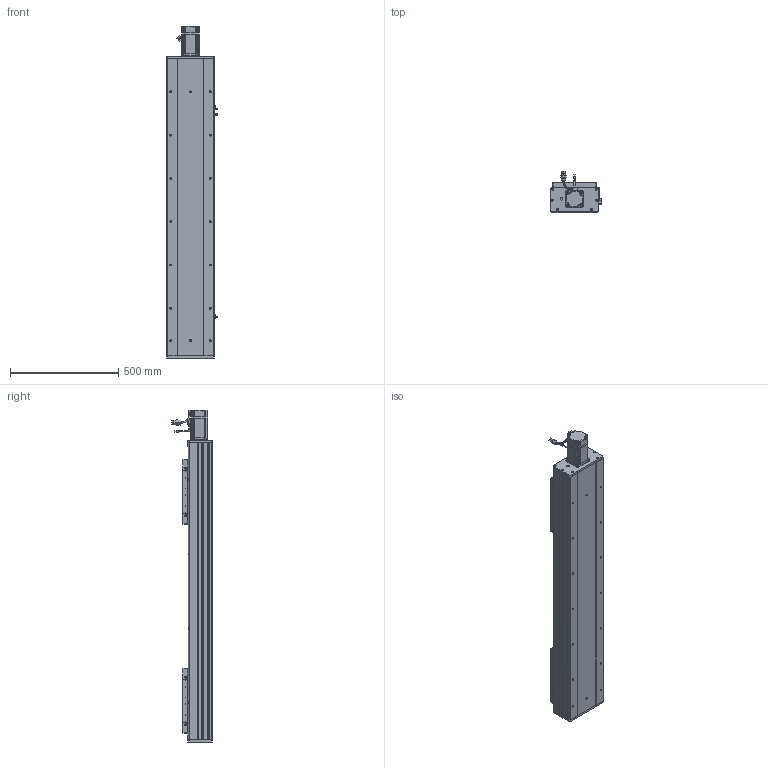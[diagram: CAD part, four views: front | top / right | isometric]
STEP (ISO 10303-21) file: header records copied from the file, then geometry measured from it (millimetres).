
FILE_DESCRIPTION (( 'STEP AP203' ), '1' );
FILE_NAME ('RY220F-L2525-300-MK.SLDASM_950.step', '2022-07-04T01:03:43', ( '' ), ( '' ), 'SwSTEP 2.0', 'SolidWorks 2016', '' );
FILE_SCHEMA (( 'CONFIG_CONTROL_DESIGN' ));
Length unit declared in the file: millimetre
Products named in the file (15): RY220F臏賑釱25-32佪裝; 滅袉蝶18-24; RY220F菁釱MK-300_950; 覜茼ん672; RY220F-672覜茼んえ; RY220F綴裔啣; RY220Fヶ裔啣; RY220F-L2525-300-MK.SLDASM_950; RY220F-奻裔啣-300_950; 怢湛750W_ECMA-CX0807ES; RY220F-滅鳥奻裔; RY220F-詩湍揤踡輸; 滅袉蝶18-20; RY220电机支撑座FK20（PCD90M6）; RY220F-祥凄詩湍-MK-300_950
Assembly tree (23 placements, depth 2):
  RY220F-L2525-300-MK.SLDASM_950
    RY220F菁釱MK-300_950
    RY220电机支撑座FK20（PCD90M6）
    RY220F-奻裔啣-300_950  x2
    怢湛750W_ECMA-CX0807ES
    RY220F臏賑釱25-32佪裝  x2
    RY220F-滅鳥奻裔  x2
    滅袉蝶18-20
    滅袉蝶18-24  x3
    RY220Fヶ裔啣
    RY220F綴裔啣
    RY220F-祥凄詩湍-MK-300_950
    RY220F-詩湍揤踡輸  x2
    覜茼ん672  x3
    RY220F-672覜茼んえ  x2
Bounding box: 233.7 x 187.27 x 1534.3 mm (x, y, z)
Volume: 14515445.3 mm3; surface area: 3591452.7 mm2
Topology: 24 solids, 24 shells, 2750 faces, 7534 edges, 4666 vertices
Faces by surface type: cylinder 1242, plane 1030, cone 415, bspline 37, sphere 16, torus 10
Entity records: 68622 total; most frequent: CARTESIAN_POINT 18430, ORIENTED_EDGE 10170, DIRECTION 9890, EDGE_CURVE 5085, AXIS2_PLACEMENT_3D 3519, VERTEX_POINT 3306, VECTOR 2852, LINE 2852
